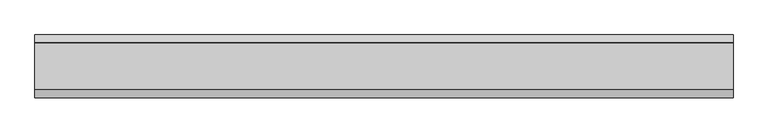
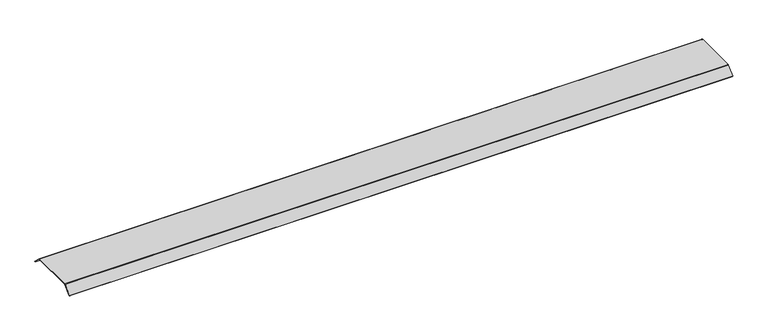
"""IFC4 building model written with IfcOpenShell, lengths in millimetres: proxy geometry, Electrical_Installation_Hager_Blank-Cover-800mm-Double-Sided-Height-70mm : Electrical_Installation_Hager_Blank-Cover-800mm-Double-Sided-Height-70mm."""

from ifc_helpers import new_model, si_unit, point, frame, frame_2d, origin, place, context, project, spatial, polyline, circle_curve, trimmed, segment, composite_curve, outline, extrude, source, transform, mapped, element, save


def electrical_fixtures_f3ac6556(model_context):
    return source(origin(), model_context, "Body", "SweptSolid", [
        extrude(outline(composite_curve([segment(trimmed(circle_curve(frame_2d((200.0, 36.5)), 4.0), [point((200.0, 40.5))], [point((202.8284271, 39.3284271))], False, "CARTESIAN"), True, "CONTINUOUS"), segment(polyline([(202.8284271, 39.3284271), (270.78408, -28.6272257), (268.6627596, -30.7485461), (200.996177, 36.9180366)]), True, "CONTINUOUS"), segment(trimmed(circle_curve(frame_2d((199.591193, 35.5130527)), 1.9869473), [point((200.996177, 36.9180366))], [point((199.591193, 37.5))], True, "CARTESIAN"), True, "CONTINUOUS"), segment(polyline([(199.591193, 37.5), (-199.8229541, 37.5)]), True, "CONTINUOUS"), segment(trimmed(circle_curve(frame_2d((-199.8229541, 36.0725733)), 1.4274267), [point((-199.8229541, 37.5))], [point((-200.8322972, 37.0819164))], True, "CARTESIAN"), True, "CONTINUOUS"), segment(polyline([(-200.8322972, 37.0819164), (-268.6627596, -30.7485461), (-270.78408, -28.6272257), (-202.8206472, 39.336207)]), True, "CONTINUOUS"), segment(trimmed(circle_curve(frame_2d((-200.0110025, 36.5265623)), 3.9734377), [point((-202.8206472, 39.336207))], [point((-200.0110025, 40.5))], False, "CARTESIAN"), True, "CONTINUOUS"), segment(polyline([(-200.0110025, 40.5), (200.0, 40.5)]), True, "CONTINUOUS")], self_intersect=False)), frame((0.0, 0.0, 0.0), z_axis=(1.0, 0.0, 0.0), x_axis=(0.0, 1.0, 0.0)), (0.0, 0.0, 1.0), 6011.6956759),
    ])


if __name__ == "__main__":
    model = new_model("IFC4")
    model_context = context("Model", 3, world=origin())
    ifc_project = project(units=[si_unit("LENGTHUNIT", "METRE", prefix="MILLI")], contexts=[model_context])
    site = spatial("IfcSite", under=ifc_project)
    building = spatial("IfcBuilding", under=site)
    placement = place(None, origin())
    electrical_fixtures_shape = electrical_fixtures_f3ac6556(model_context)
    element("IfcBuildingElementProxy", 1, Name="Electrical_Installation_Hager_Blank-Cover-800mm-Double-Sided-Height-70mm : Electrical_Installation_Hager_Blank-Cover-800mm-Double-Sided-Height-70mm", ObjectType="Electrical_Installation_Hager_Blank-Cover-800mm-Double-Sided-Height-70mm : Electrical_Installation_Hager_Blank-Cover-800mm-Double-Sided-Height-70mm", at=placement, inside=building, context=model_context, shape_type="MappedRepresentation", body=[
        mapped(electrical_fixtures_shape, transform((0.0, 0.0, 0.0), x_axis=(1.0, 0.0, 0.0), y_axis=(0.0, 1.0, 0.0), z_axis=(0.0, 0.0, 1.0))),
    ])
    save(model, "model.ifc")
